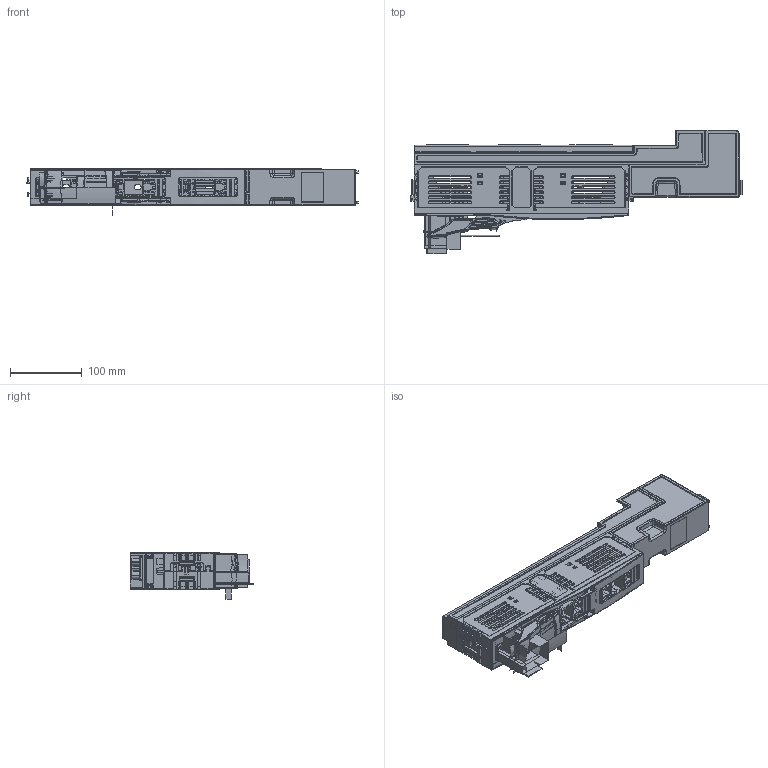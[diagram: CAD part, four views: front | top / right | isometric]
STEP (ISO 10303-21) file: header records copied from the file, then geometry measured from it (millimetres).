
FILE_DESCRIPTION((''),'2;1');
FILE_NAME('NHRT40-125-160-3L','2019-08-16T',('zhuanghy'),(''),'PRO/ENGINEER BY PARAMETRIC TECHNOLOGY CORPORATION, 2008380','PRO/ENGINEER BY PARAMETRIC TECHNOLOGY CORPORATION, 2008380','');
FILE_SCHEMA(('CONFIG_CONTROL_DESIGN'));
Products named in the file (1): NHRT40-125-160-3L
Bounding box: 463.7 x 172.3 x 64.49 mm (x, y, z)
Surface area: 628551.8 mm2
Topology: 8 solids, 59 shells, 9165 faces, 25431 edges, 15816 vertices
Faces by surface type: plane 5135, cylinder 2544, torus 537, sphere 350, bspline 303, cone 275, extrusion 19, revolution 2
Entity records: 304988 total; most frequent: CARTESIAN_POINT 75160, ORIENTED_EDGE 49681, DIRECTION 45493, EDGE_CURVE 25173, VECTOR 17225, LINE 17206, VERTEX_POINT 15812, AXIS2_PLACEMENT_3D 14133
